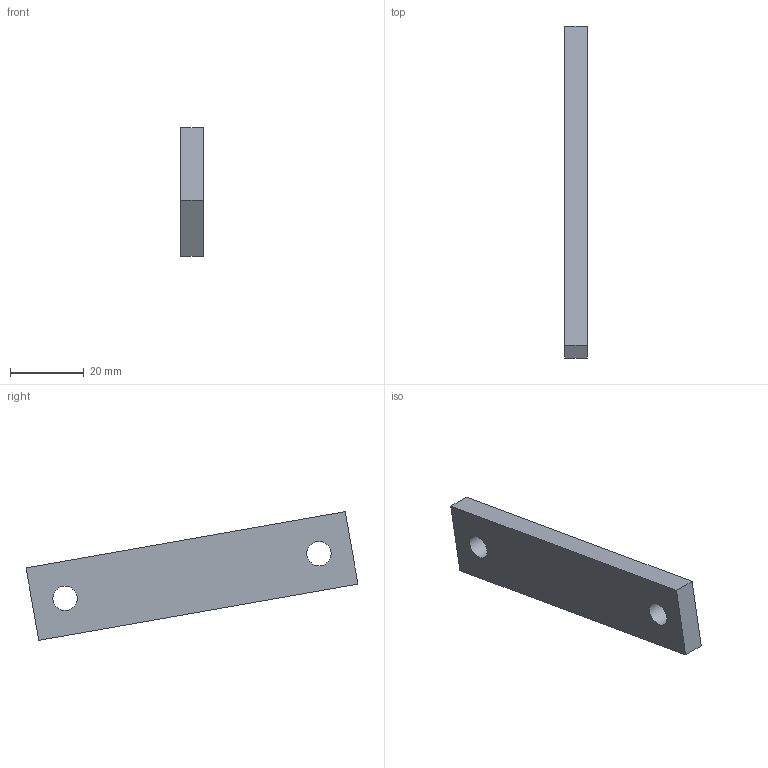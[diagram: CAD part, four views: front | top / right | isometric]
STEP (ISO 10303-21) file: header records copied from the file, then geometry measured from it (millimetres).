
FILE_DESCRIPTION(('golf model'),'2;1');
FILE_NAME('golf','',(''),(''),'golf_step_io','golf','');
FILE_SCHEMA(('AUTOMOTIVE_DESIGN { 1 0 10303 214 1 1 1 1 }'));
Length unit declared in the file: millimetre
Products named in the file (2): ASSEMBLY; gantry_drives.y_spacer_bf
Assembly tree (1 placements, depth 2):
  ASSEMBLY
    gantry_drives.y_spacer_bf
Bounding box: 6 x 90.14 x 34.98 mm (x, y, z)
Volume: 10149.5 mm3; surface area: 4928 mm2
Topology: 1 solids, 1 shells, 8 faces, 18 edges, 12 vertices
Faces by surface type: plane 6, cylinder 2
Full cylindrical faces by diameter (mm): 6.6 x2
Entity records: 258 total; most frequent: DIRECTION 40, CARTESIAN_POINT 38, ORIENTED_EDGE 32, EDGE_CURVE 16, AXIS2_PLACEMENT_3D 14, EDGE_LOOP 14, VERTEX_POINT 12, VECTOR 12
